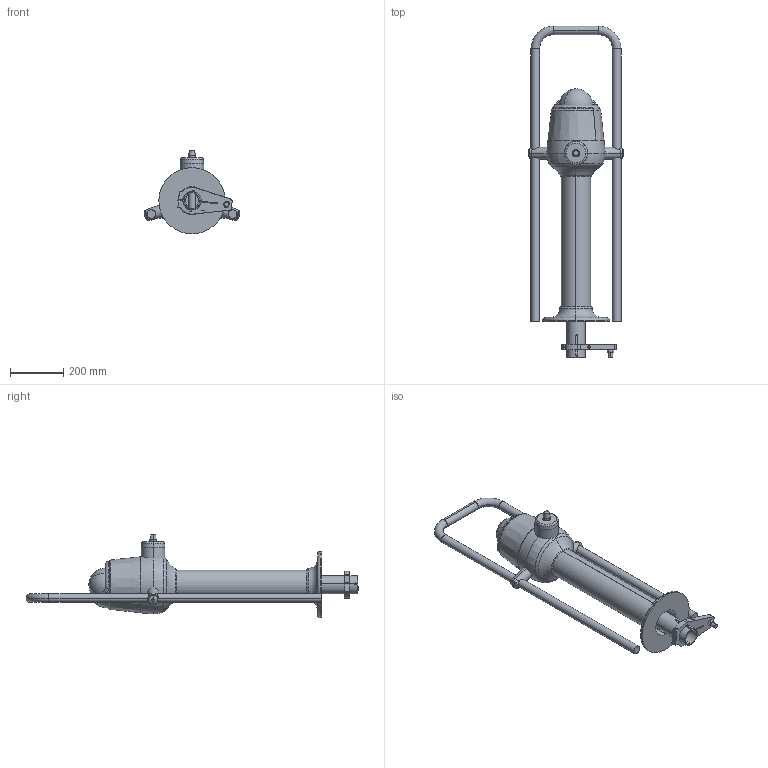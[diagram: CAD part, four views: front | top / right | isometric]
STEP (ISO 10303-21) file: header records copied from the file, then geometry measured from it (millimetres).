
FILE_DESCRIPTION (( 'STEP AP214' ), '1' );
FILE_NAME ('RP100-63.STEP', '2014-09-09T08:57:00', ( '' ), ( '' ), 'SwSTEP 2.0', 'SolidWorks 2014', '' );
FILE_SCHEMA (( 'AUTOMOTIVE_DESIGN' ));
Length unit declared in the file: millimetre
Products named in the file (12): Body for compass horizon_No bottom; RP100 guardrail; RP100 pedestal_Standard 630; RP100-63; Output lever_Output lever ›69; Z4-211 RP71 Downtube ø70x84_630; plain washer grade c_din_Washer DIN 126 - 6.6; socket head cap screw_din_DIN 912 M6 x 30 --- 30S; countersunk raised head cross recess screw_din_ISO 7047 - M3 x 12 - Z --- 12S; Body for compass horizon_No top; RP100 Binacelhus; Glass for compass horizon
Assembly tree (20 placements, depth 2):
  RP100-63
    RP100 pedestal_Standard 630
    RP100 guardrail
    Body for compass horizon_No bottom
    Glass for compass horizon
    RP100 Binacelhus
    Body for compass horizon_No top
    countersunk raised head cross recess screw_din_ISO 7047 - M3 x 12 - Z --- 12S  x4
    socket head cap screw_din_DIN 912 M6 x 30 --- 30S  x4
    plain washer grade c_din_Washer DIN 126 - 6.6  x4
    Z4-211 RP71 Downtube ø70x84_630
    Output lever_Output lever ›69
Bounding box: 356.74 x 1242.5 x 313.5 mm (x, y, z)
Volume: 8441494.4 mm3; surface area: 1714846.9 mm2
Topology: 20 solids, 20 shells, 1707 faces, 4372 edges, 2709 vertices
Faces by surface type: cone 844, cylinder 551, plane 233, torus 63, sphere 14, bspline 2
Entity records: 21472 total; most frequent: CARTESIAN_POINT 4866, DIRECTION 3729, ORIENTED_EDGE 3180, EDGE_CURVE 1590, AXIS2_PLACEMENT_3D 1561, VERTEX_POINT 994, CIRCLE 907, EDGE_LOOP 706
